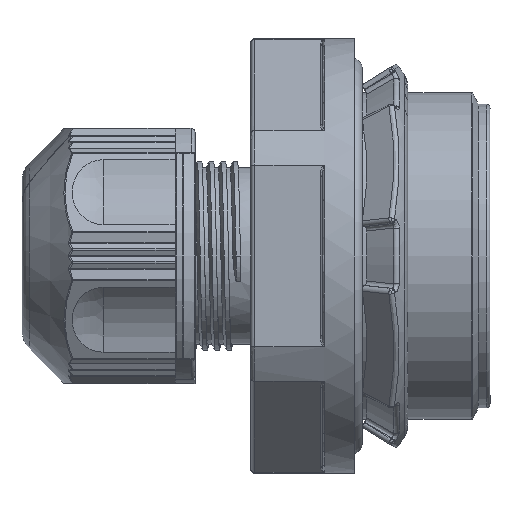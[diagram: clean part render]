
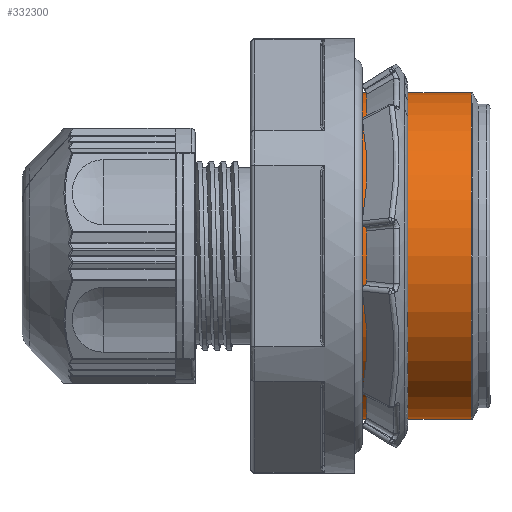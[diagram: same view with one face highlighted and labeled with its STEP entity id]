
A CAD part, left-side view. The second image highlights one B-rep face of the part: STEP entity #332300.
In plain terms, the highlighted cylindrical face has radius 20.5 mm (diameter 41 mm), a partial arc.
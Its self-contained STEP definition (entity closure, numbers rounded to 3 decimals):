
#283140=CARTESIAN_POINT('',(54.41,72.938,
-0.1));
#283150=VERTEX_POINT('',#283140);
#283180=CARTESIAN_POINT('',(61.681,72.938,
-0.1));
#283190=DIRECTION('',(1.,0.,0.));
#283200=VECTOR('',#283190,1.);
#283210=LINE('',#283180,#283200);
#283220=CARTESIAN_POINT('',(69.074,72.938,
-0.1));
#283230=VERTEX_POINT('',#283220);
#283240=EDGE_CURVE('',#283150,#283230,#283210,.T.);
#284350=CARTESIAN_POINT('',(69.074,31.939,
-0.1));
#284360=VERTEX_POINT('',#284350);
#284390=CARTESIAN_POINT('',(61.681,31.939,
-0.1));
#284400=DIRECTION('',(1.,0.,0.));
#284410=VECTOR('',#284400,1.);
#284420=LINE('',#284390,#284410);
#284430=CARTESIAN_POINT('',(54.41,31.939,
-0.1));
#284440=VERTEX_POINT('',#284430);
#284450=EDGE_CURVE('',#284440,#284360,#284420,.T.);
#332000=CARTESIAN_POINT('',(69.074,52.439,
0.));
#332010=DIRECTION('',(1.,0.,0.));
#332020=DIRECTION('',(0.,-1.,0.));
#332030=AXIS2_PLACEMENT_3D('',#332000,#332010,#332020);
#332040=CIRCLE('',#332030,20.5);
#332050=EDGE_CURVE('',#284360,#283230,#332040,.T.);
#332130=CARTESIAN_POINT('',(61.681,52.439,
0.));
#332140=DIRECTION('',(1.,0.,0.));
#332150=DIRECTION('',(0.,-1.,0.));
#332160=AXIS2_PLACEMENT_3D('',#332130,#332140,#332150);
#332170=CYLINDRICAL_SURFACE('',#332160,20.5);
#332180=ORIENTED_EDGE('',*,*,#332050,.F.);
#332190=ORIENTED_EDGE('',*,*,#283240,.T.);
#332200=CARTESIAN_POINT('',(54.41,52.439,
0.));
#332210=DIRECTION('',(1.,0.,0.));
#332220=DIRECTION('',(0.,1.,0.));
#332230=AXIS2_PLACEMENT_3D('',#332200,#332210,#332220);
#332240=CIRCLE('',#332230,20.5);
#332250=EDGE_CURVE('',#284440,#283150,#332240,.T.);
#332260=ORIENTED_EDGE('',*,*,#332250,.T.);
#332270=ORIENTED_EDGE('',*,*,#284450,.F.);
#332280=EDGE_LOOP('',(#332270,#332260,#332190,#332180));
#332290=FACE_OUTER_BOUND('',#332280,.T.);
#332300=ADVANCED_FACE('',(#332290),#332170,.T.);
